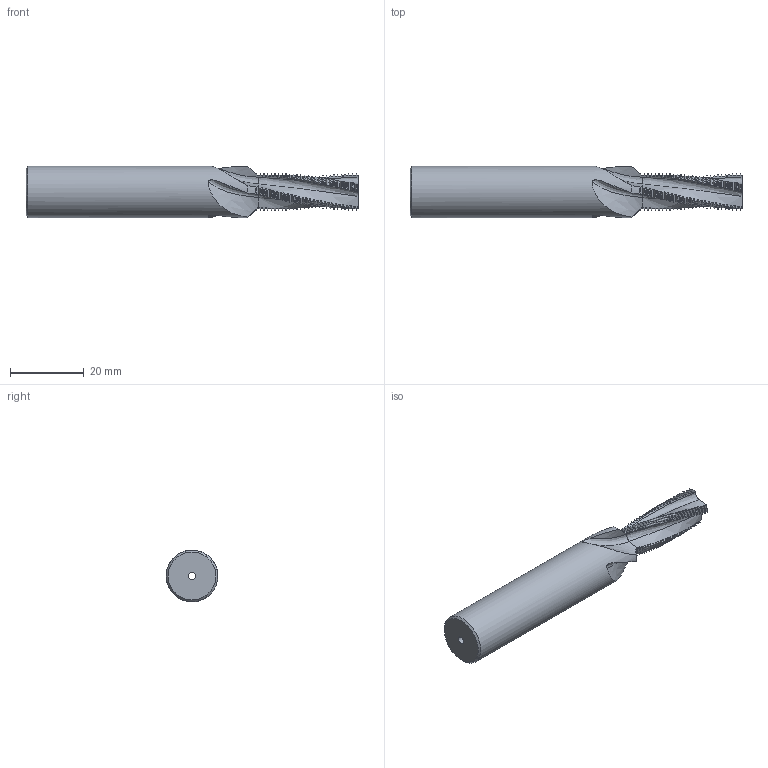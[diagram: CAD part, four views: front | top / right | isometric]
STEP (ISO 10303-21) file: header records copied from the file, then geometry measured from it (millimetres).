
FILE_DESCRIPTION(/* description */ (''),/* implementation_level */ '2;1');
FILE_NAME(/* name */ '00036362-STEP',/* time_stamp */ '2024-02-14T08:43:47+01:00',/* author */ (''),/* organization */ (''),/* preprocessor_version */ 'ST-DEVELOPER v16.5',/* originating_system */ 'HiCAD 2017 2201.0 Build 268',/* authorisation */ '');
FILE_SCHEMA (('AUTOMOTIVE_DESIGN { 1 0 10303 214 1 1 1 1 }'));
Products named in the file (2): Root; ROTATIONSTEIL_0
Assembly tree (1 placements, depth 2):
  Root
    ROTATIONSTEIL_0
Bounding box: 90 x 14 x 14 mm (x, y, z)
Volume: 9627.4 mm3; surface area: 4582.3 mm2
Topology: 1 solids, 1 shells, 697 faces, 2084 edges, 1389 vertices
Faces by surface type: cylinder 226, cone 225, torus 220, bspline 24, plane 2
Full cylindrical faces by diameter (mm): 2 x1, 14 x1
Entity records: 70919 total; most frequent: CARTESIAN_POINT 34990, PRESENTATION_STYLE_ASSIGNMENT 4155, COLOUR_RGB 4155, DRAUGHTING_PRE_DEFINED_CURVE_FONT 4154, CURVE_STYLE 4154, OVER_RIDING_STYLED_ITEM 4154, ORIENTED_EDGE 4154, DIRECTION 2704
